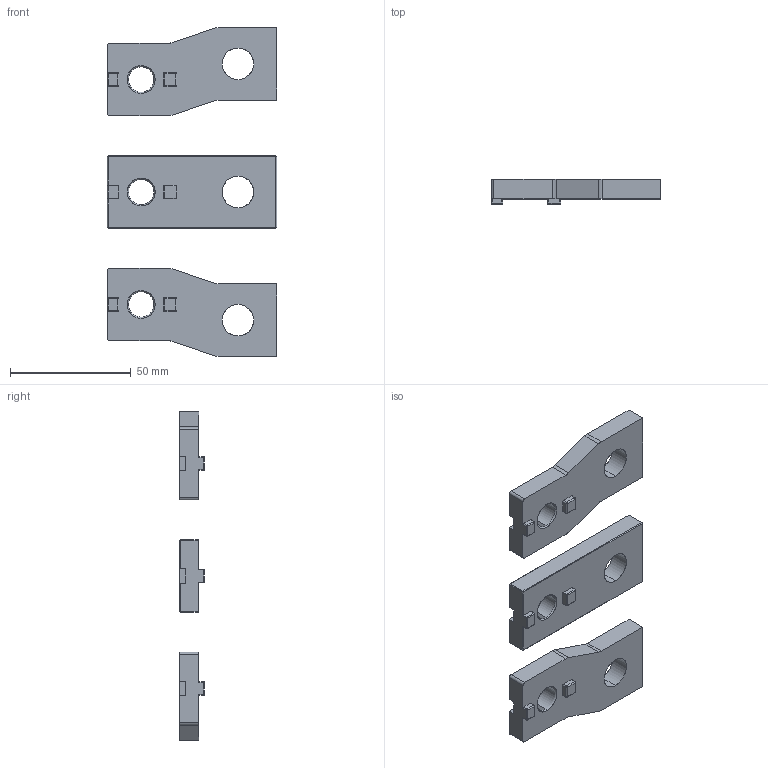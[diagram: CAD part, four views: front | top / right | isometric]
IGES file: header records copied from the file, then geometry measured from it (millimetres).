
Start section: SolidWorks IGES file using analytic representation for surfaces
Global section: file name: \\Brjgs100\DFSWEG\GROUPS\BR_SC_JGS_WA_TECNICO\ENG\Usuarios\Rodrigob\conversão\Disjuntor de Caixa Moldada\Produto\Acessorios ACW\BE ACW400...630\BE ACW400...630.IGS; native system: SolidWorks 2018; preprocessor: SolidWorks 2018; author: rodrigob; date: 211110.093405; units: millimetre
Bounding box: 70 x 10.3 x 136 mm (x, y, z)
Surface area: 17917.3 mm2 (no closed solid volume)
Topology: 0 solids, 0 shells, 205 faces, 1518 edges, 1494 vertices
Faces by surface type: revolution 111, bspline 94
